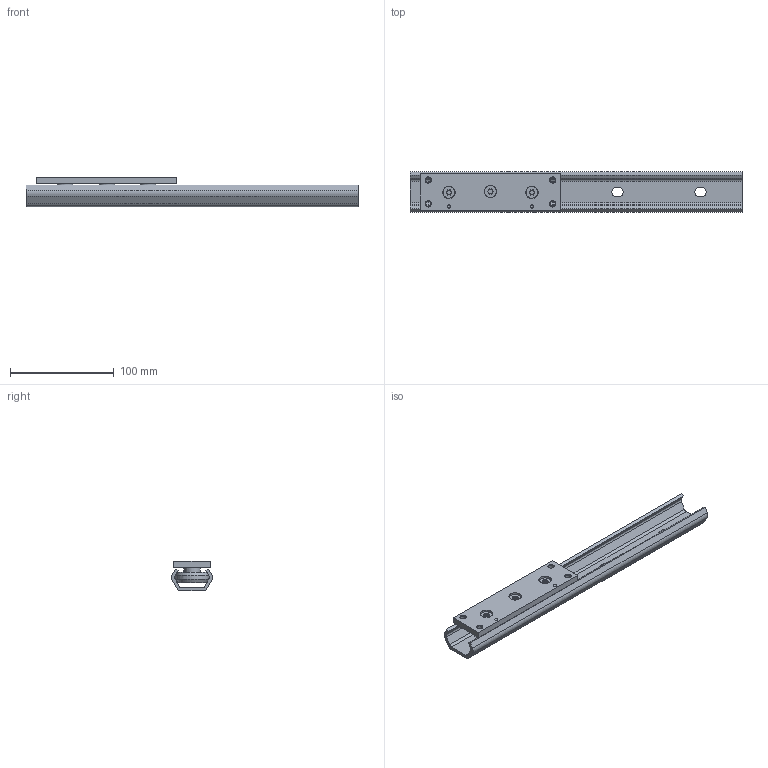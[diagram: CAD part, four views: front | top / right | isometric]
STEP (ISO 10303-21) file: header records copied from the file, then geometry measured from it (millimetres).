
FILE_DESCRIPTION( ( 'STEP AP214' ), '1' );
FILE_NAME( 'p:/temp/worker_300/temp/exporttempdir_2980_199_drp0T/format_0/TEN40-0320-CEN40-135.stp', '2020-01-13T20:08:39', ( '' ), ( '' ), ' ', 'PARTsolutions', ' ' );
FILE_SCHEMA( ( 'AUTOMOTIVE_DESIGN { 1 0 10303 214 1 1 1 1 }' ) );
Length unit declared in the file: millimetre
Products named in the file (6): TEN40-0320-CEN40-135; _TEN 40-320; _CEN40-135_1; _RLN40(15_M6); _RLA40(15_M6); _LAN-40
Assembly tree (8 placements, depth 2):
  TEN40-0320-CEN40-135
    _TEN 40-320
    _CEN40-135_1
    _RLN40(15_M6)  x2
    _RLA40(15_M6)
    _LAN-40  x3
Bounding box: 320 x 39.5 x 28.65 mm (x, y, z)
Volume: 114576.5 mm3; surface area: 66811.7 mm2
Topology: 8 solids, 8 shells, 237 faces, 514 edges, 332 vertices
Faces by surface type: plane 115, cylinder 85, cone 28, bspline 9
Full cylindrical faces by diameter (mm): 3 x2, 3.82 x3, 4.917 x7, 5.6 x3, 6 x3, 8 x3, 11.3 x3, 12 x3, 15 x6, 15.6 x6, 22 x6, 22.9 x6
Entity records: 5814 total; most frequent: CARTESIAN_POINT 970, DIRECTION 756, ORIENTED_EDGE 576, AXIS2_PLACEMENT_3D 316, EDGE_CURVE 288, EDGE_LOOP 274, VERTEX_POINT 226, FACE_OUTER_BOUND 202
